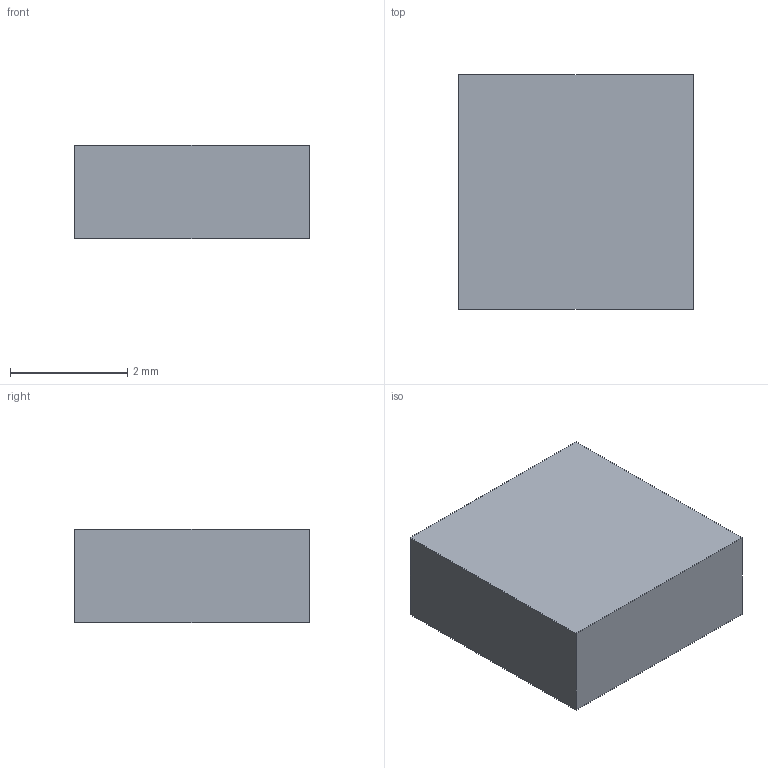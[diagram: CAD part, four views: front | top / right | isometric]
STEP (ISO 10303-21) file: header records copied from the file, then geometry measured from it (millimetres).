
FILE_DESCRIPTION(('Open CASCADE Model'),'2;1');
FILE_NAME('Open CASCADE Shape Model','2026-09-07T01:16:41',('Author'),( 'Open CASCADE'),'Open CASCADE STEP processor 7.9','Open CASCADE 7.9' ,'Unknown');
FILE_SCHEMA(('AUTOMOTIVE_DESIGN { 1 0 10303 214 1 1 1 1 }'));
Length unit declared in the file: millimetre
Products named in the file (2): Coilcraft_XFL4015_envelope; body_0
Assembly tree (1 placements, depth 2):
  Coilcraft_XFL4015_envelope
    body_0
Bounding box: 4 x 4 x 1.6 mm (x, y, z)
Volume: 25.6 mm3; surface area: 57.6 mm2
Topology: 1 solids, 1 shells, 6 faces, 12 edges, 8 vertices
Faces by surface type: plane 6
Entity records: 349 total; most frequent: CARTESIAN_POINT 52, DIRECTION 52, LINE 36, VECTOR 36, ORIENTED_EDGE 24, PCURVE 24, DEFINITIONAL_REPRESENTATION 24, EDGE_CURVE 12
